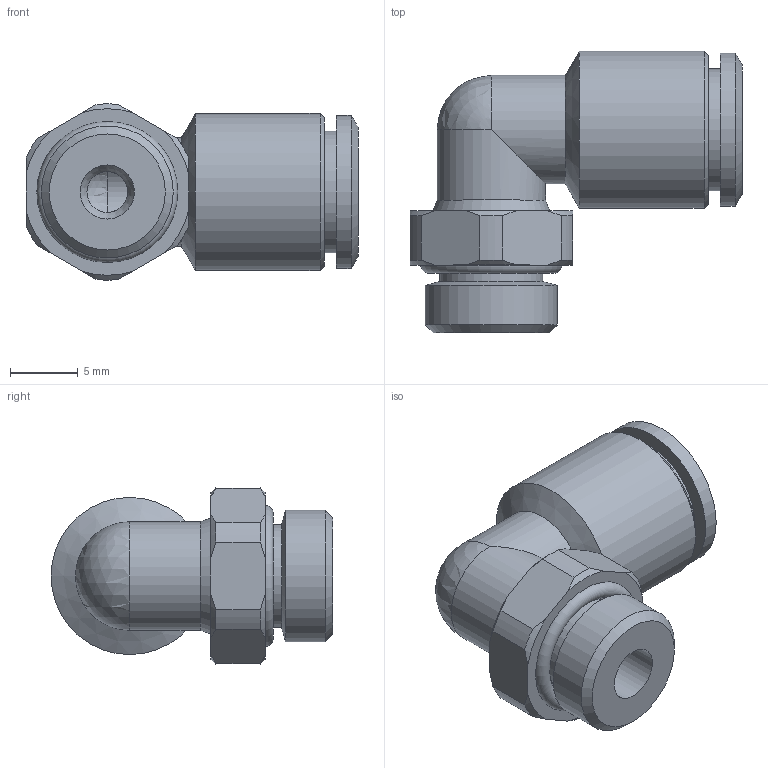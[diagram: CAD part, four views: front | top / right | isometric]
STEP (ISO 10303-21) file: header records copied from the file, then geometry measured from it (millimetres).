
FILE_DESCRIPTION(('STEP AP214'),'1');
FILE_NAME('CA.12.05.003.stp','2019-06-07T06:13:52',(' '),(' '),'Spatial InterOp 3D',' ',' ');
FILE_SCHEMA(('AUTOMOTIVE_DESIGN { 1 0 10303 214 1 1 1 1 }'));
Length unit declared in the file: millimetre
Products named in the file (1): CA.12.05.003
Bounding box: 24.5 x 20.8 x 12.99 mm (x, y, z)
Volume: 2066.5 mm3; surface area: 1945.3 mm2
Topology: 1 solids, 1 shells, 53 faces, 137 edges, 88 vertices
Faces by surface type: cone 19, cylinder 17, plane 14, sphere 2, torus 1
Full cylindrical faces by diameter (mm): 3 x1, 4 x1, 4.5 x1, 6 x1, 7.6 x1, 8 x2, 9 x1, 9.728 x1, 11.3 x1, 11.6 x1
Entity records: 1894 total; most frequent: CARTESIAN_POINT 331, DIRECTION 238, ORIENTED_EDGE 204, AXIS2_PLACEMENT_3D 107, EDGE_CURVE 102, EDGE_LOOP 80, VERTEX_POINT 76, FACE_OUTER_BOUND 65
